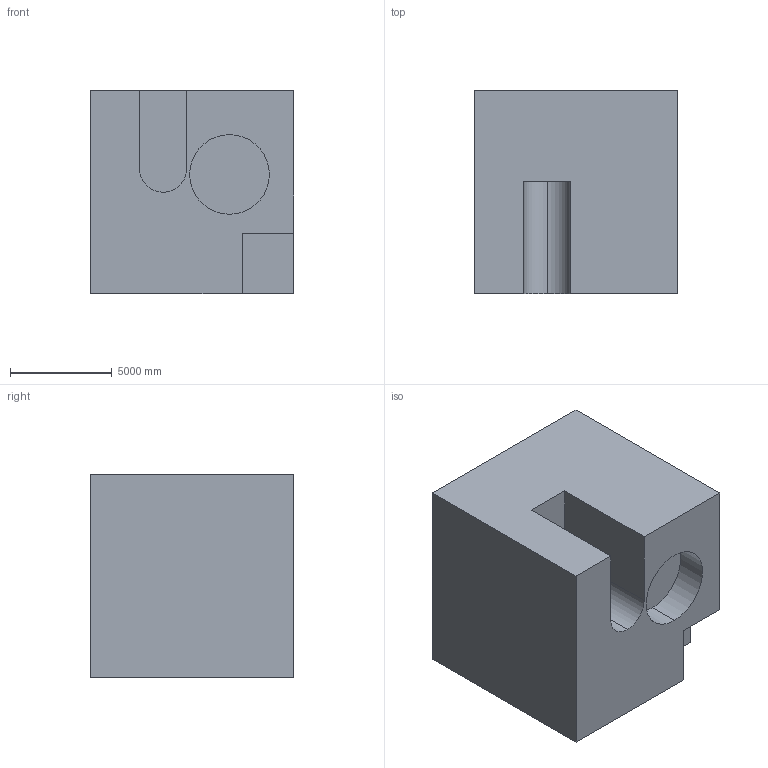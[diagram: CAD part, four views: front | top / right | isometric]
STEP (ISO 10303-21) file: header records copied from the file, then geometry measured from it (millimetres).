
FILE_DESCRIPTION (( 'STEP AP203' ), '1' );
FILE_NAME ('256.STEP', '2022-09-07T12:28:24', ( 'user' ), ( '' ), 'SwSTEP 2.0', 'SolidWorks 2021', '' );
FILE_SCHEMA (( 'CONFIG_CONTROL_DESIGN' ));
Length unit declared in the file: centimetre
Products named in the file (1): 256
Bounding box: 10000 x 10000 x 10000 mm (x, y, z)
Volume: 905385388472 mm3; surface area: 668746266.9 mm2
Topology: 1 solids, 1 shells, 17 faces, 42 edges, 28 vertices
Faces by surface type: plane 13, cylinder 4
Entity records: 581 total; most frequent: CARTESIAN_POINT 88, DIRECTION 86, ORIENTED_EDGE 84, EDGE_CURVE 42, VECTOR 34, LINE 34, VERTEX_POINT 28, AXIS2_PLACEMENT_3D 26
